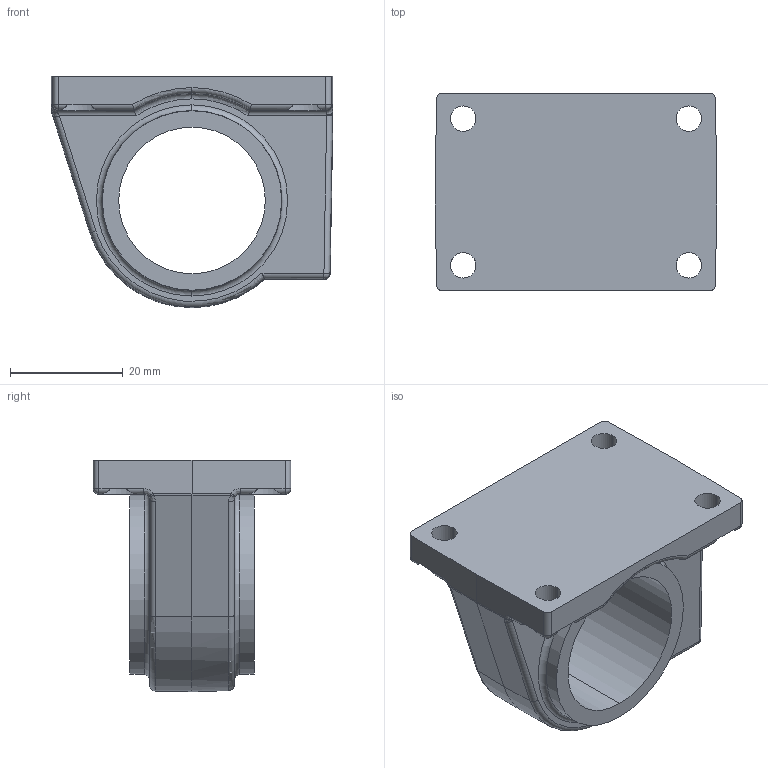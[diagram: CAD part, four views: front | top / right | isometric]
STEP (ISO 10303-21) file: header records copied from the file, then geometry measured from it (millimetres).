
FILE_DESCRIPTION (( 'STEP AP203' ), '1' );
FILE_NAME ('KGG65-16.step', '2020-03-10T15:13:08', ( '' ), ( '' ), 'SwSTEP 2.0', 'SolidWorks 2019', '' );
FILE_SCHEMA (( 'CONFIG_CONTROL_DESIGN' ));
Length unit declared in the file: millimetre
Products named in the file (2): KGG65-16
Bounding box: 49.98 x 35 x 41 mm (x, y, z)
Volume: 24233.9 mm3; surface area: 9498.2 mm2
Topology: 1 solids, 1 shells, 127 faces, 298 edges, 173 vertices
Faces by surface type: cylinder 57, plane 33, torus 14, bspline 8, sphere 8, cone 7
Entity records: 4119 total; most frequent: CARTESIAN_POINT 1125, DIRECTION 611, ORIENTED_EDGE 592, EDGE_CURVE 296, AXIS2_PLACEMENT_3D 247, VERTEX_POINT 173, EDGE_LOOP 139, ADVANCED_FACE 127
